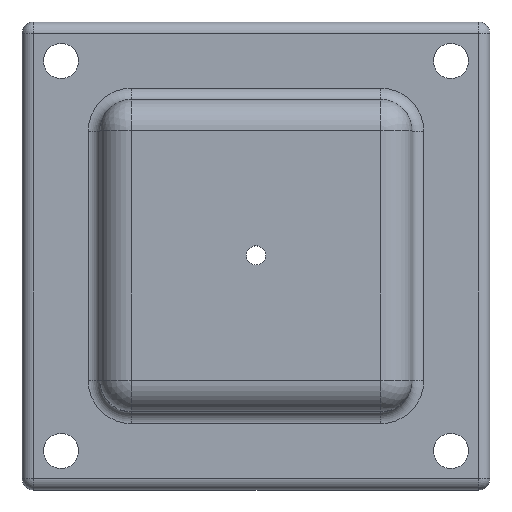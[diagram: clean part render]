
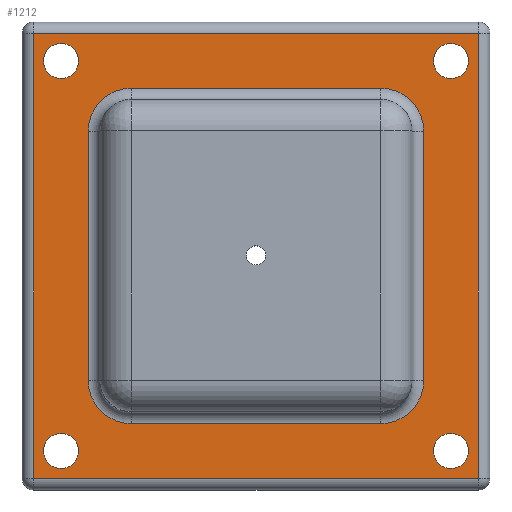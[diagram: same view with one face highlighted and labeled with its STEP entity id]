
A CAD part, top view. The second image highlights one B-rep face of the part: STEP entity #1212.
In plain terms, the highlighted planar face has unit normal (0, 0, 1).
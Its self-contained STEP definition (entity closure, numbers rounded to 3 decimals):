
#31=FACE_BOUND('',#212,.T.);
#32=FACE_BOUND('',#213,.T.);
#33=FACE_BOUND('',#214,.T.);
#34=FACE_BOUND('',#215,.T.);
#35=FACE_BOUND('',#216,.T.);
#80=PLANE('',#1319);
#120=FACE_OUTER_BOUND('',#211,.T.);
#211=EDGE_LOOP('',(#875,#876,#877,#878));
#212=EDGE_LOOP('',(#879,#880,#881,#882,#883,#884,#885,#886));
#213=EDGE_LOOP('',(#887));
#214=EDGE_LOOP('',(#888));
#215=EDGE_LOOP('',(#889));
#216=EDGE_LOOP('',(#890));
#338=LINE('',#1935,#402);
#340=LINE('',#1943,#404);
#342=LINE('',#1953,#406);
#344=LINE('',#1962,#408);
#352=LINE('',#1988,#416);
#353=LINE('',#1992,#417);
#354=LINE('',#1996,#418);
#355=LINE('',#2000,#419);
#402=VECTOR('',#1491,114.);
#404=VECTOR('',#1499,114.);
#406=VECTOR('',#1511,114.);
#408=VECTOR('',#1523,114.);
#416=VECTOR('',#1553,64.);
#417=VECTOR('',#1556,64.);
#418=VECTOR('',#1559,64.);
#419=VECTOR('',#1562,64.);
#479=CIRCLE('',#1320,11.);
#480=CIRCLE('',#1321,11.);
#481=CIRCLE('',#1322,11.);
#482=CIRCLE('',#1323,11.);
#483=CIRCLE('',#1324,4.5);
#484=CIRCLE('',#1325,4.5);
#485=CIRCLE('',#1326,4.5);
#486=CIRCLE('',#1327,4.5);
#563=VERTEX_POINT('',#1928);
#566=VERTEX_POINT('',#1933);
#567=VERTEX_POINT('',#1937);
#570=VERTEX_POINT('',#1947);
#580=VERTEX_POINT('',#1986);
#581=VERTEX_POINT('',#1987);
#582=VERTEX_POINT('',#1989);
#583=VERTEX_POINT('',#1991);
#584=VERTEX_POINT('',#1993);
#585=VERTEX_POINT('',#1995);
#586=VERTEX_POINT('',#1997);
#587=VERTEX_POINT('',#1999);
#588=VERTEX_POINT('',#2002);
#589=VERTEX_POINT('',#2004);
#590=VERTEX_POINT('',#2006);
#591=VERTEX_POINT('',#2008);
#672=EDGE_CURVE('',#566,#563,#338,.T.);
#676=EDGE_CURVE('',#563,#567,#340,.T.);
#681=EDGE_CURVE('',#567,#570,#342,.T.);
#686=EDGE_CURVE('',#570,#566,#344,.T.);
#698=EDGE_CURVE('',#580,#581,#352,.T.);
#699=EDGE_CURVE('',#582,#580,#479,.T.);
#700=EDGE_CURVE('',#583,#582,#353,.T.);
#701=EDGE_CURVE('',#584,#583,#480,.T.);
#702=EDGE_CURVE('',#585,#584,#354,.T.);
#703=EDGE_CURVE('',#586,#585,#481,.T.);
#704=EDGE_CURVE('',#587,#586,#355,.T.);
#705=EDGE_CURVE('',#581,#587,#482,.T.);
#706=EDGE_CURVE('',#588,#588,#483,.T.);
#707=EDGE_CURVE('',#589,#589,#484,.T.);
#708=EDGE_CURVE('',#590,#590,#485,.T.);
#709=EDGE_CURVE('',#591,#591,#486,.T.);
#875=ORIENTED_EDGE('',*,*,#672,.F.);
#876=ORIENTED_EDGE('',*,*,#686,.F.);
#877=ORIENTED_EDGE('',*,*,#681,.F.);
#878=ORIENTED_EDGE('',*,*,#676,.F.);
#879=ORIENTED_EDGE('',*,*,#698,.F.);
#880=ORIENTED_EDGE('',*,*,#699,.F.);
#881=ORIENTED_EDGE('',*,*,#700,.F.);
#882=ORIENTED_EDGE('',*,*,#701,.F.);
#883=ORIENTED_EDGE('',*,*,#702,.F.);
#884=ORIENTED_EDGE('',*,*,#703,.F.);
#885=ORIENTED_EDGE('',*,*,#704,.F.);
#886=ORIENTED_EDGE('',*,*,#705,.F.);
#887=ORIENTED_EDGE('',*,*,#706,.T.);
#888=ORIENTED_EDGE('',*,*,#707,.T.);
#889=ORIENTED_EDGE('',*,*,#708,.T.);
#890=ORIENTED_EDGE('',*,*,#709,.T.);
#1212=ADVANCED_FACE('',(#120,#31,#32,#33,#34,#35),#80,.T.);
#1319=AXIS2_PLACEMENT_3D('',#1985,#1551,#1552);
#1320=AXIS2_PLACEMENT_3D('',#1990,#1554,#1555);
#1321=AXIS2_PLACEMENT_3D('',#1994,#1557,#1558);
#1322=AXIS2_PLACEMENT_3D('',#1998,#1560,#1561);
#1323=AXIS2_PLACEMENT_3D('',#2001,#1563,#1564);
#1324=AXIS2_PLACEMENT_3D('',#2003,#1565,#1566);
#1325=AXIS2_PLACEMENT_3D('',#2005,#1567,#1568);
#1326=AXIS2_PLACEMENT_3D('',#2007,#1569,#1570);
#1327=AXIS2_PLACEMENT_3D('',#2009,#1571,#1572);
#1491=DIRECTION('',(0.,1.,0.));
#1499=DIRECTION('',(1.,0.,0.));
#1511=DIRECTION('',(0.,-1.,0.));
#1523=DIRECTION('',(-1.,0.,0.));
#1551=DIRECTION('center_axis',(0.,0.,1.));
#1552=DIRECTION('ref_axis',(1.,0.,0.));
#1553=DIRECTION('',(0.,-1.,0.));
#1554=DIRECTION('center_axis',(0.,0.,1.));
#1555=DIRECTION('ref_axis',(-0.707,0.707,0.));
#1556=DIRECTION('',(-1.,0.,0.));
#1557=DIRECTION('center_axis',(0.,0.,1.));
#1558=DIRECTION('ref_axis',(0.707,0.707,0.));
#1559=DIRECTION('',(0.,1.,0.));
#1560=DIRECTION('center_axis',(0.,0.,1.));
#1561=DIRECTION('ref_axis',(0.707,-0.707,0.));
#1562=DIRECTION('',(1.,0.,0.));
#1563=DIRECTION('center_axis',(0.,0.,1.));
#1564=DIRECTION('ref_axis',(-0.707,-0.707,0.));
#1565=DIRECTION('center_axis',(0.,0.,-1.));
#1566=DIRECTION('ref_axis',(-1.,0.,0.));
#1567=DIRECTION('center_axis',(0.,0.,-1.));
#1568=DIRECTION('ref_axis',(-1.,0.,0.));
#1569=DIRECTION('center_axis',(0.,0.,-1.));
#1570=DIRECTION('ref_axis',(1.,0.,0.));
#1571=DIRECTION('center_axis',(0.,0.,-1.));
#1572=DIRECTION('ref_axis',(1.,0.,0.));
#1928=CARTESIAN_POINT('',(-57.,57.,10.));
#1933=CARTESIAN_POINT('',(-57.,-57.,10.));
#1935=CARTESIAN_POINT('',(-57.,30.,10.));
#1937=CARTESIAN_POINT('',(57.,57.,10.));
#1943=CARTESIAN_POINT('',(30.,57.,10.));
#1947=CARTESIAN_POINT('',(57.,-57.,10.));
#1953=CARTESIAN_POINT('',(57.,-30.,10.));
#1962=CARTESIAN_POINT('',(-30.,-57.,10.));
#1985=CARTESIAN_POINT('Origin',(0.,0.,10.));
#1986=CARTESIAN_POINT('',(-43.,32.,10.));
#1987=CARTESIAN_POINT('',(-43.,-32.,10.));
#1988=CARTESIAN_POINT('',(-43.,20.,10.));
#1989=CARTESIAN_POINT('',(-32.,43.,10.));
#1990=CARTESIAN_POINT('Origin',(-32.,32.,10.));
#1991=CARTESIAN_POINT('',(32.,43.,10.));
#1992=CARTESIAN_POINT('',(20.,43.,10.));
#1993=CARTESIAN_POINT('',(43.,32.,10.));
#1994=CARTESIAN_POINT('Origin',(32.,32.,10.));
#1995=CARTESIAN_POINT('',(43.,-32.,10.));
#1996=CARTESIAN_POINT('',(43.,-20.,10.));
#1997=CARTESIAN_POINT('',(32.,-43.,10.));
#1998=CARTESIAN_POINT('Origin',(32.,-32.,10.));
#1999=CARTESIAN_POINT('',(-32.,-43.,10.));
#2000=CARTESIAN_POINT('',(-20.,-43.,10.));
#2001=CARTESIAN_POINT('Origin',(-32.,-32.,10.));
#2002=CARTESIAN_POINT('',(-54.5,-50.,10.));
#2003=CARTESIAN_POINT('Origin',(-50.,-50.,10.));
#2004=CARTESIAN_POINT('',(-54.5,50.,10.));
#2005=CARTESIAN_POINT('Origin',(-50.,50.,10.));
#2006=CARTESIAN_POINT('',(54.5,-50.,10.));
#2007=CARTESIAN_POINT('Origin',(50.,-50.,10.));
#2008=CARTESIAN_POINT('',(54.5,50.,10.));
#2009=CARTESIAN_POINT('Origin',(50.,50.,10.));
